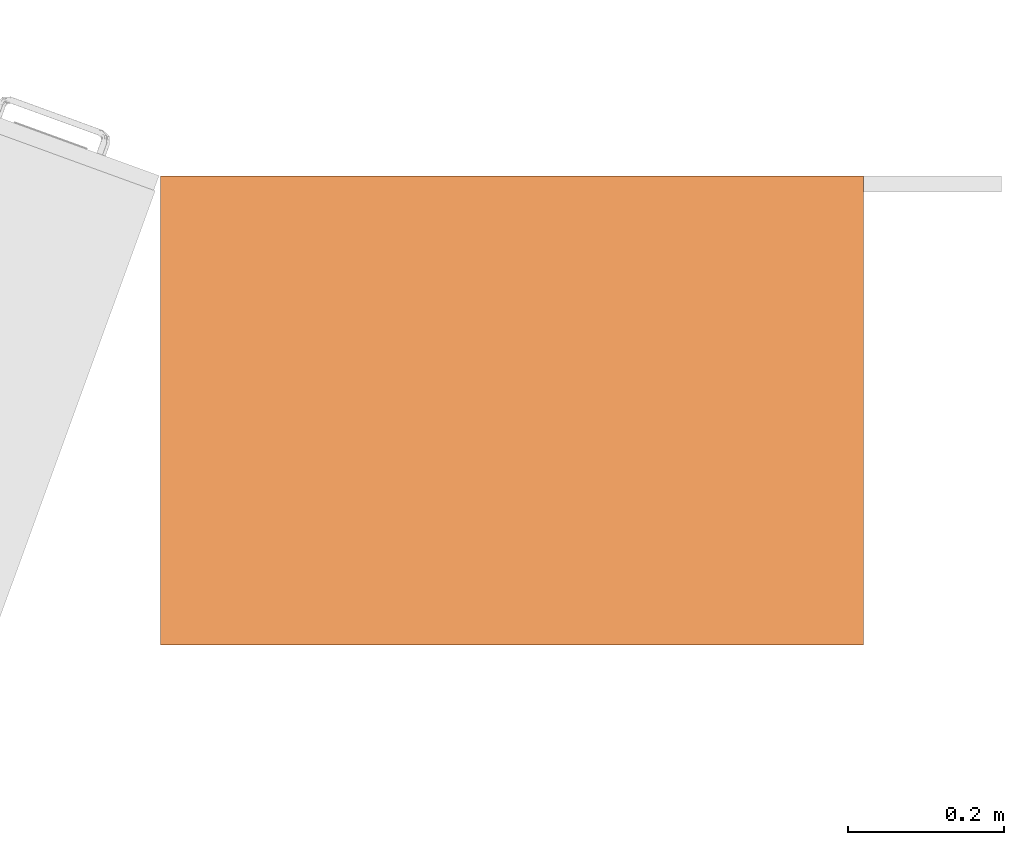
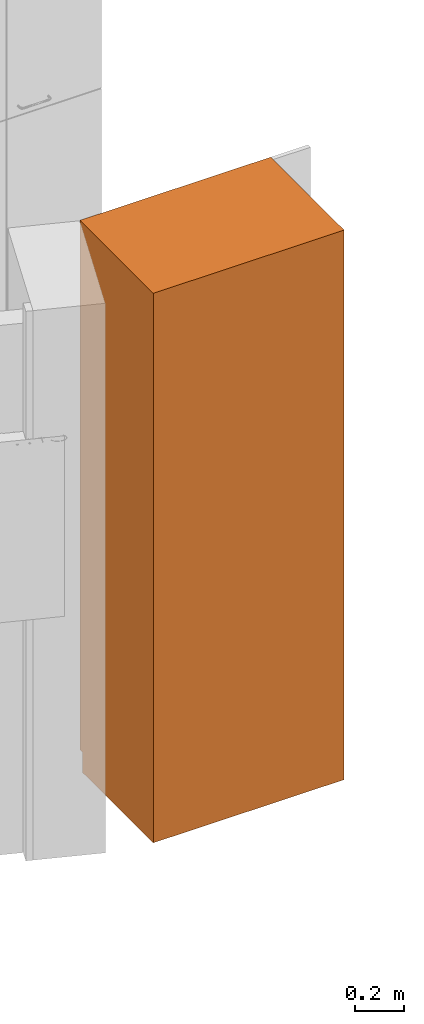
# One storey, part 23 of 32: 1 proxy.
"""IFC2X3 building model written with IfcOpenShell, lengths in metres."""

import ifcopenshell
import ifcopenshell.guid

model = None  # the IFC model being written
_history = None  # IfcOwnerHistory: only IFC2X3 demands one
_inside = {}  # id of a spatial element -> (the spatial element, [elements in it])
_under = {}  # id of a project, library or spatial element -> (it, [spatial elements below it])
_declared = {}  # id of a project -> (the project, [libraries it declares])
_typed = {}  # id of a type object -> (the type object, [elements of that type])
_made_of = {}  # id of a material, layer set ... -> (it, [elements and type objects made of it])


def new_model(schema):
    """Start an empty IFC model of exactly this schema.

    Asked for "IFC4X3", IfcOpenShell would pick the latest addendum, in which some entities
    have other attributes; the version numbers below select the first issue.
    IFC2X3 requires an IfcOwnerHistory on every rooted entity: one is made here for all.
    """
    global model, _history
    if schema == "IFC4X3":
        model = ifcopenshell.file(schema_version=(4, 3, 0, 0))
    else:
        model = ifcopenshell.file(schema=schema)
    _inside.clear()
    _under.clear()
    _declared.clear()
    _typed.clear()
    _made_of.clear()
    _history = None
    if model.schema == "IFC2X3":
        org = make("IfcOrganization", Name="unknown")
        user = make(
            "IfcPersonAndOrganization",
            ThePerson=make("IfcPerson", FamilyName="unknown"),
            TheOrganization=org,
        )
        app = make(
            "IfcApplication",
            ApplicationDeveloper=org,
            Version="unknown",
            ApplicationFullName="unknown",
            ApplicationIdentifier="unknown",
        )
        _history = make(
            "IfcOwnerHistory",
            OwningUser=user,
            OwningApplication=app,
            ChangeAction="ADDED",
            CreationDate=0,
        )
    return model


def make(cls, **values):
    """One entity of the class cls with the attributes given. An attribute that is None is left unset."""
    return model.create_entity(
        cls, **{name: value for name, value in values.items() if value is not None}
    )


def entity(cls, *values):
    """Any entity or typed value of the class cls, its attributes in the order of the schema. None: left unset."""
    e = model.create_entity(cls)
    for i, value in enumerate(values):
        if value is not None:
            e[i] = value
    return e


def rooted(cls, **values):
    """An entity with a GlobalId (a new one), such as an element, a storey or a relation."""
    return make(cls, GlobalId=ifcopenshell.guid.new(), OwnerHistory=_history, **values)


def si_unit(unit_type, name, prefix=None):
    """IfcSIUnit, for example si_unit("LENGTHUNIT", "METRE", prefix="MILLI")."""
    return make("IfcSIUnit", UnitType=unit_type, Prefix=prefix, Name=name)


def converted_unit(unit_type, name, factor, base, dimensions=None, offset=None):
    """IfcConversionBasedUnit, such as the inch: factor (a typed value) times the base unit."""
    return make(
        "IfcConversionBasedUnit"
        if offset is None
        else "IfcConversionBasedUnitWithOffset",
        ConversionOffset=offset,
        Dimensions=None
        if dimensions is None
        else entity("IfcDimensionalExponents", *dimensions),
        UnitType=unit_type,
        Name=name,
        ConversionFactor=make(
            "IfcMeasureWithUnit", ValueComponent=factor, UnitComponent=base
        ),
    )


def derived_unit(unit_type, elements):
    """IfcDerivedUnit: a product of units, each with its exponent."""
    return make(
        "IfcDerivedUnit",
        Elements=[
            make("IfcDerivedUnitElement", Unit=unit, Exponent=power)
            for unit, power in elements
        ],
        UnitType=unit_type,
    )


def assignment(units):
    """IfcUnitAssignment: the units of a project."""
    return None if units is None else make("IfcUnitAssignment", Units=units)


def point(xyz):
    """IfcCartesianPoint."""
    return None if xyz is None else make("IfcCartesianPoint", Coordinates=xyz)


def direction(xyz):
    """IfcDirection."""
    return None if xyz is None else make("IfcDirection", DirectionRatios=xyz)


def frame(location, z_axis=None, x_axis=None):
    """IfcAxis2Placement3D, a coordinate frame: its origin and axes. An axis left out is left unset."""
    return make(
        "IfcAxis2Placement3D",
        Location=point(location),
        Axis=direction(z_axis),
        RefDirection=direction(x_axis),
    )


def origin():
    """The frame at (0, 0, 0) with its axes left unset."""
    return frame((0.0, 0.0, 0.0))


def place(relative_to, where):
    """IfcLocalPlacement: puts the frame where relative to a parent placement (None: the world)."""
    return make(
        "IfcLocalPlacement", PlacementRelTo=relative_to, RelativePlacement=where
    )


def context(
    kind, dimensions, precision=None, world=None, true_north=None, identifier=None
):
    """IfcGeometricRepresentationContext, for example the 3D "Model" context."""
    return make(
        "IfcGeometricRepresentationContext",
        ContextIdentifier=identifier,
        ContextType=kind,
        CoordinateSpaceDimension=dimensions,
        Precision=precision,
        WorldCoordinateSystem=world,
        TrueNorth=true_north,
    )


def subcontext(parent, identifier, kind, view, scale=None):
    """IfcGeometricRepresentationSubContext, for example "Body" below "Model"."""
    return make(
        "IfcGeometricRepresentationSubContext",
        ContextIdentifier=identifier,
        ContextType=kind,
        ParentContext=parent,
        TargetScale=scale,
        TargetView=view,
    )


def project(units=None, contexts=None):
    """IfcProject with its units and contexts."""
    return rooted(
        "IfcProject",
        Name="project",
        RepresentationContexts=contexts,
        UnitsInContext=assignment(units),
    )


def spatial(cls, under=None, at=None, **own):
    """A site, building, storey or space (cls), placed at a placement, below another one or the project."""
    s = rooted(cls, ObjectPlacement=at, **own)
    if under is not None:
        _under.setdefault(under.id(), (under, []))[1].append(s)
    return s


def faces_of(points, faces, orient=None, outer=None):
    """IfcFace entities. A face is a list of loops; a loop is a list of indices into points, from 0.

    orient and outer hold one flag for each loop. By default every Orientation is true, the
    first loop of a face is its IfcFaceOuterBound and the others are IfcFaceBound.
    """
    made = []
    for i, loops in enumerate(faces):
        bounds = []
        for j, loop in enumerate(loops):
            is_outer = j == 0 if outer is None else outer[i][j]
            bounds.append(
                make(
                    "IfcFaceOuterBound" if is_outer else "IfcFaceBound",
                    Bound=make("IfcPolyLoop", Polygon=[points[k] for k in loop]),
                    Orientation=True if orient is None else orient[i][j],
                )
            )
        made.append(make("IfcFace", Bounds=bounds))
    return made


def faceted_brep(points, faces, orient=None, outer=None, voids=None):
    """IfcFacetedBrep: a solid bounded by flat faces; with voids (closed shells), ...WithVoids."""
    shared = [point(p) for p in points]
    hull = make("IfcClosedShell", CfsFaces=faces_of(shared, faces, orient, outer))
    if voids is None:
        return make("IfcFacetedBrep", Outer=hull)
    return make(
        "IfcFacetedBrepWithVoids",
        Outer=hull,
        Voids=[
            make(cls, CfsFaces=faces_of(shared, fs, o, b)) for cls, fs, o, b in voids
        ],
    )


def shape(context_of_items, identifier, shape_type, items):
    """IfcShapeRepresentation: the items that make up one representation, for example the "Body"."""
    return make(
        "IfcShapeRepresentation",
        ContextOfItems=context_of_items,
        RepresentationIdentifier=identifier,
        RepresentationType=shape_type,
        Items=items,
    )


def source(mapping_origin, context_of_items, identifier, shape_type, items):
    """IfcRepresentationMap: a shape defined once, which mapped items show again and again."""
    return make(
        "IfcRepresentationMap",
        MappingOrigin=mapping_origin,
        MappedRepresentation=shape(context_of_items, identifier, shape_type, items),
    )


def transform(
    local_origin,
    x_axis=None,
    y_axis=None,
    z_axis=None,
    scale=None,
    scale2=None,
    scale3=None,
    uniform=True,
):
    """IfcCartesianTransformationOperator3D, or its non-uniform kind. x_axis, y_axis, z_axis: its Axis1, 2, 3."""
    if uniform:
        return make(
            "IfcCartesianTransformationOperator3D",
            Axis1=direction(x_axis),
            Axis2=direction(y_axis),
            LocalOrigin=point(local_origin),
            Scale=scale,
            Axis3=direction(z_axis),
        )
    return make(
        "IfcCartesianTransformationOperator3DnonUniform",
        Axis1=direction(x_axis),
        Axis2=direction(y_axis),
        LocalOrigin=point(local_origin),
        Scale=scale,
        Axis3=direction(z_axis),
        Scale2=scale2,
        Scale3=scale3,
    )


def mapped(mapping_source, mapping_target):
    """IfcMappedItem: shows the shape of a source again, moved by a transform."""
    return make(
        "IfcMappedItem", MappingSource=mapping_source, MappingTarget=mapping_target
    )


def material(Name=None, Category=None):
    """IfcMaterial."""
    return make("IfcMaterial", Name=Name, Category=Category)


def material_list(materials):
    """IfcMaterialList."""
    return make("IfcMaterialList", Materials=materials)


def made_of(thing, what):
    """Note that an element or type object is made of a material, layer set ...; save() writes the relation."""
    if what is not None:
        _made_of.setdefault(what.id(), (what, []))[1].append(thing)
    return thing


def type_object(cls, material=None, **own):
    """A type object (cls), such as IfcWallType, which elements share."""
    return made_of(rooted(cls, **own), material)


def type_shapes(of_type, sources):
    """Give a type object the sources (RepresentationMaps) that its elements show as mapped items."""
    of_type.RepresentationMaps = sources


def element(
    cls,
    number,
    at=None,
    inside=None,
    cuts=None,
    type_object=None,
    material=None,
    context=None,
    identifier="Body",
    shape_type=None,
    held_by="IfcProductDefinitionShape",
    body=None,
    shapes=None,
    **own,
):
    """One element of the class cls, such as IfcWall. Its Tag is "e" and its number.

    at: its placement. inside: the storey or other place that contains it. cuts: it is an
    opening in that element (IfcRelVoidsElement). A single representation is given by context,
    identifier, shape_type and body (its items); several are given by shapes. held_by: the class
    of the entity that holds the representations. save() writes the other relations.
    """
    e = rooted(cls, Tag="e%d" % number, ObjectPlacement=at, **own)
    if body is not None:
        shapes = [shape(context, identifier, shape_type, body)]
    if shapes is not None:
        e.Representation = make(held_by, Representations=shapes)
    if inside is not None:
        _inside.setdefault(inside.id(), (inside, []))[1].append(e)
    if cuts is not None:
        rooted(
            "IfcRelVoidsElement", RelatingBuildingElement=cuts, RelatedOpeningElement=e
        )
    if type_object is not None:
        _typed.setdefault(type_object.id(), (type_object, []))[1].append(e)
    return made_of(e, material)


def aggregate(whole, parts):
    """IfcRelAggregates: a whole, such as a stair, and the parts it consists of."""
    return rooted("IfcRelAggregates", RelatingObject=whole, RelatedObjects=parts)


def save(model, path):
    """Write the relations noted so far, then the file.

    IfcRelAggregates (storeys below a building ...), IfcRelContainedInSpatialStructure (elements
    in a storey), IfcRelDefinesByType, IfcRelAssociatesMaterial and IfcRelDeclares: one each for
    every whole, place, type object, material and project.
    """
    for whole, parts in _under.values():
        aggregate(whole, parts)
    for where, things in _inside.values():
        rooted(
            "IfcRelContainedInSpatialStructure",
            RelatedElements=things,
            RelatingStructure=where,
        )
    for kind, things in _typed.values():
        rooted("IfcRelDefinesByType", RelatedObjects=things, RelatingType=kind)
    for what, things in _made_of.values():
        rooted("IfcRelAssociatesMaterial", RelatedObjects=things, RelatingMaterial=what)
    for by, libraries in _declared.values():
        rooted("IfcRelDeclares", RelatingContext=by, RelatedDefinitions=libraries)
    model.write(path)


model = new_model("IFC2X3")

# Units and contexts
model_context = context("Model", 3, precision=1e-05, world=origin(), true_north=direction((6.12303176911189e-17, 1.0)))
body_context = subcontext(model_context, "Body", "Model", "MODEL_VIEW")
ifc_project = project(units=[si_unit("LENGTHUNIT", "METRE"), si_unit("AREAUNIT", "SQUARE_METRE"), si_unit("VOLUMEUNIT", "CUBIC_METRE"), converted_unit("PLANEANGLEUNIT", "DEGREE", entity("IfcRatioMeasure", 0.0174532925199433), si_unit("PLANEANGLEUNIT", "RADIAN"), dimensions=[0, 0, 0, 0, 0, 0, 0]), si_unit("MASSUNIT", "GRAM", prefix="KILO"), derived_unit("MASSDENSITYUNIT", [(si_unit("MASSUNIT", "GRAM", prefix="KILO"), 1), (si_unit("LENGTHUNIT", "METRE"), -3)]), derived_unit("MOMENTOFINERTIAUNIT", [(si_unit("LENGTHUNIT", "METRE"), 4)]), si_unit("TIMEUNIT", "SECOND"), si_unit("FREQUENCYUNIT", "HERTZ"), si_unit("THERMODYNAMICTEMPERATUREUNIT", "DEGREE_CELSIUS"), derived_unit("THERMALTRANSMITTANCEUNIT", [(si_unit("MASSUNIT", "GRAM", prefix="KILO"), 1), (si_unit("THERMODYNAMICTEMPERATUREUNIT", "KELVIN"), -1), (si_unit("TIMEUNIT", "SECOND"), -3)]), derived_unit("VOLUMETRICFLOWRATEUNIT", [(si_unit("LENGTHUNIT", "METRE"), 3), (si_unit("TIMEUNIT", "SECOND"), -1)]), si_unit("ELECTRICCURRENTUNIT", "AMPERE"), si_unit("ELECTRICVOLTAGEUNIT", "VOLT"), si_unit("POWERUNIT", "WATT"), si_unit("FORCEUNIT", "NEWTON", prefix="KILO"), si_unit("ILLUMINANCEUNIT", "LUX"), si_unit("LUMINOUSFLUXUNIT", "LUMEN"), si_unit("LUMINOUSINTENSITYUNIT", "CANDELA"), derived_unit("USERDEFINED", [(si_unit("MASSUNIT", "GRAM", prefix="KILO"), -1), (si_unit("LENGTHUNIT", "METRE"), -2), (si_unit("TIMEUNIT", "SECOND"), 3), (si_unit("LUMINOUSFLUXUNIT", "LUMEN"), 1)]), derived_unit("LINEARVELOCITYUNIT", [(si_unit("LENGTHUNIT", "METRE"), 1), (si_unit("TIMEUNIT", "SECOND"), -1)]), si_unit("PRESSUREUNIT", "PASCAL"), derived_unit("USERDEFINED", [(si_unit("LENGTHUNIT", "METRE"), -2), (si_unit("MASSUNIT", "GRAM", prefix="KILO"), 1), (si_unit("TIMEUNIT", "SECOND"), -2)]), derived_unit("LINEARFORCEUNIT", [(si_unit("MASSUNIT", "GRAM", prefix="KILO"), 1), (si_unit("LENGTHUNIT", "METRE"), 1), (si_unit("TIMEUNIT", "SECOND"), -2), (si_unit("LENGTHUNIT", "METRE"), -1)]), derived_unit("PLANARFORCEUNIT", [(si_unit("MASSUNIT", "GRAM", prefix="KILO"), 1), (si_unit("LENGTHUNIT", "METRE"), 1), (si_unit("TIMEUNIT", "SECOND"), -2), (si_unit("LENGTHUNIT", "METRE"), -2)])], contexts=[model_context])

# Site, building, storey
site_placement = place(None, origin())
site = spatial("IfcSite", under=ifc_project, at=site_placement, Name="Default", CompositionType="ELEMENT")
building_placement = place(site_placement, origin())
building = spatial("IfcBuilding", under=site, at=building_placement, CompositionType="ELEMENT")
storey_placement = place(building_placement, origin())
storey = spatial("IfcBuildingStorey", under=building, at=storey_placement, Name="00 EG", CompositionType="ELEMENT", Elevation=0.0)

# Proxy
ifc_material_1 = material(Name="dh_Weiss")
ifc_material_2 = material(Name="dh_Grau")
ifc_material_list_1 = material_list([ifc_material_1, ifc_material_2])
ifc_material_list_2 = material_list([ifc_material_1, ifc_material_2])
building_element_proxy_type = type_object("IfcBuildingElementProxyType", Name="dh_Laborhochregal:900x600x900", PredefinedType="NOTDEFINED", material=ifc_material_list_2)
shared_shape = source(origin(), body_context, "Body", "Brep", [
    faceted_brep([(0.430000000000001, 0.279999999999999, 2.38), (-0.429999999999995, 0.279999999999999, 2.38), (-0.429999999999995, -0.3, 2.38), (0.430000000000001, -0.3, 2.38), (0.430000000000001, 0.279999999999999, 2.36), (0.430000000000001, -0.3, 2.36), (-0.429999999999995, -0.3, 2.36), (-0.429999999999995, 0.279999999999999, 2.36)], [[[0, 1, 2, 3]], [[4, 5, 6, 7]], [[1, 0, 4, 7]], [[2, 1, 7, 6]], [[3, 2, 6, 5]], [[0, 3, 5, 4]]]),
    faceted_brep([(0.45, -0.3, 2.74), (-0.45, -0.3, 2.74), (-0.45, -0.3, 2.0), (0.45, -0.3, 2.0), (-0.429999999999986, -0.3, 2.72), (0.429999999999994, -0.3, 2.72), (0.429999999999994, -0.3, 2.02), (-0.429999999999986, -0.3, 2.02), (0.45, 0.3, 2.0), (-0.45, 0.3, 2.0), (-0.45, 0.3, 2.74), (0.45, 0.3, 2.74), (0.429999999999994, 0.279999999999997, 2.02), (-0.429999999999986, 0.279999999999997, 2.02), (-0.429999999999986, 0.279999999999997, 2.72), (0.429999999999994, 0.279999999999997, 2.72)], [[[0, 1, 2, 3], [4, 5, 6, 7]], [[8, 9, 10, 11]], [[0, 3, 8, 11]], [[7, 6, 12, 13]], [[2, 1, 10, 9]], [[3, 2, 9, 8]], [[1, 0, 11, 10]], [[5, 4, 14, 15]], [[4, 7, 13, 14]], [[14, 13, 12, 15]], [[15, 12, 6, 5]]]),
    faceted_brep([(0.430000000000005, 0.279999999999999, 1.628), (-0.429999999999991, 0.279999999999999, 1.628), (-0.429999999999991, -0.3, 1.628), (0.430000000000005, -0.3, 1.628), (0.430000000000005, 0.279999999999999, 1.608), (0.430000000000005, -0.3, 1.608), (-0.429999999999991, -0.3, 1.608), (-0.429999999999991, 0.279999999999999, 1.608)], [[[0, 1, 2, 3]], [[4, 5, 6, 7]], [[1, 0, 4, 7]], [[2, 1, 7, 6]], [[3, 2, 6, 5]], [[0, 3, 5, 4]]]),
    faceted_brep([(0.429999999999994, 0.279999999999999, 1.256), (-0.429999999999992, 0.279999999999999, 1.256), (-0.429999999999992, -0.3, 1.256), (0.429999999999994, -0.3, 1.256), (0.429999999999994, 0.279999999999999, 1.236), (0.429999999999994, -0.3, 1.236), (-0.429999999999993, -0.3, 1.236), (-0.429999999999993, 0.279999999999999, 1.236)], [[[0, 1, 2, 3]], [[4, 5, 6, 7]], [[1, 0, 4, 7]], [[2, 1, 7, 6]], [[3, 2, 6, 5]], [[0, 3, 5, 4]]]),
    faceted_brep([(0.430000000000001, 0.279999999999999, 0.511999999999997), (-0.429999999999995, 0.279999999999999, 0.512), (-0.429999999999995, -0.3, 0.512), (0.430000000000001, -0.3, 0.511999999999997), (0.430000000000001, 0.279999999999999, 0.491999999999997), (0.430000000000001, -0.3, 0.491999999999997), (-0.429999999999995, -0.3, 0.492), (-0.429999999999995, 0.279999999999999, 0.492)], [[[0, 1, 2, 3]], [[4, 5, 6, 7]], [[1, 0, 4, 7]], [[2, 1, 7, 6]], [[3, 2, 6, 5]], [[0, 3, 5, 4]]]),
    faceted_brep([(0.429999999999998, 0.28, 0.883999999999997), (-0.429999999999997, 0.28, 0.884), (-0.429999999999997, -0.3, 0.884), (0.429999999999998, -0.3, 0.883999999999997), (0.429999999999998, 0.28, 0.863999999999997), (0.429999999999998, -0.3, 0.863999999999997), (-0.429999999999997, -0.3, 0.864), (-0.429999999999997, 0.28, 0.864)], [[[0, 1, 2, 3]], [[4, 5, 6, 7]], [[1, 0, 4, 7]], [[2, 1, 7, 6]], [[3, 2, 6, 5]], [[0, 3, 5, 4]]]),
    faceted_brep([(0.45, -0.3, 2.0), (-0.45, -0.3, 2.0), (-0.45, -0.3, 0.0999999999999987), (0.45, -0.3, 0.0999999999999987), (-0.429999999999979, -0.3, 1.98), (0.430000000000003, -0.3, 1.98), (0.430000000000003, -0.3, 0.119999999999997), (-0.429999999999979, -0.3, 0.12), (0.45, 0.3, 0.0999999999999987), (-0.45, 0.3, 0.0999999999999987), (-0.45, 0.3, 2.0), (0.45, 0.3, 2.0), (0.430000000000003, 0.279999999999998, 0.119999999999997), (-0.429999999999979, 0.279999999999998, 0.119999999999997), (-0.429999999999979, 0.279999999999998, 1.98), (0.430000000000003, 0.279999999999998, 1.98)], [[[0, 1, 2, 3], [4, 5, 6, 7]], [[8, 9, 10, 11]], [[0, 3, 8, 11]], [[7, 6, 12, 13]], [[2, 1, 10, 9]], [[3, 2, 9, 8]], [[1, 0, 11, 10]], [[5, 4, 14, 15]], [[4, 7, 13, 14]], [[14, 13, 12, 15]], [[15, 12, 6, 5]]]),
    faceted_brep([(0.45, 0.3, 0.0999999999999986), (-0.45, 0.3, 0.0999999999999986), (-0.45, -0.280000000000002, 0.0999999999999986), (0.45, -0.280000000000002, 0.0999999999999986), (0.45, 0.3, 0.0), (0.45, -0.280000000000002, 0.0), (-0.45, -0.280000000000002, 0.0), (-0.45, 0.3, 0.0)], [[[0, 1, 2, 3]], [[4, 5, 6, 7]], [[1, 0, 4, 7]], [[2, 1, 7, 6]], [[3, 2, 6, 5]], [[0, 3, 5, 4]]]),
])
type_shapes(building_element_proxy_type, [shared_shape])
proxy_placement = place(storey_placement, frame((15.9090844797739, 7.25813846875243, 0.0), z_axis=(0.0, 0.0, 1.0), x_axis=(-1.0, 0.0, 0.0)))
element("IfcBuildingElementProxy", 1, at=proxy_placement, inside=storey, type_object=building_element_proxy_type, material=ifc_material_list_1, Name="dh_Laborhochregal:900x600x900", ObjectType="dh_Laborhochregal:900x600x900", context=body_context, shape_type="MappedRepresentation", body=[
    mapped(shared_shape, transform((0.0, 0.0, 0.0), scale=1.0)),
])

save(model, "model.ifc")
